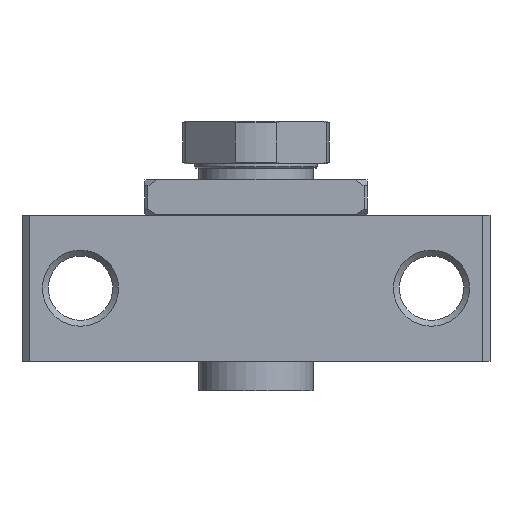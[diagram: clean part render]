
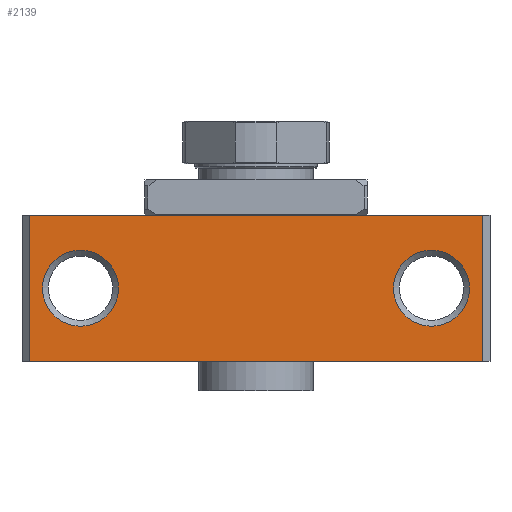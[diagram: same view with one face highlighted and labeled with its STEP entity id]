
A CAD part, front view. The second image highlights one B-rep face of the part: STEP entity #2139.
In plain terms, the highlighted planar face has unit normal (0, -1, 0).
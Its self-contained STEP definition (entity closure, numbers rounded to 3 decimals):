
#126=LINE('',#3228,#294);
#156=LINE('',#3307,#324);
#157=LINE('',#3313,#325);
#158=LINE('',#3315,#326);
#294=VECTOR('',#2588,1000.);
#324=VECTOR('',#2646,1000.);
#325=VECTOR('',#2653,1000.);
#326=VECTOR('',#2654,1000.);
#451=PLANE('',#2332);
#603=ORIENTED_EDGE('',*,*,#1179,.F.);
#604=ORIENTED_EDGE('',*,*,#1180,.F.);
#605=ORIENTED_EDGE('',*,*,#1181,.F.);
#606=ORIENTED_EDGE('',*,*,#1178,.F.);
#607=ORIENTED_EDGE('',*,*,#1141,.T.);
#608=ORIENTED_EDGE('',*,*,#1182,.T.);
#1141=EDGE_CURVE('',#1431,#1430,#126,.T.);
#1178=EDGE_CURVE('',#1431,#1465,#156,.T.);
#1179=EDGE_CURVE('',#1466,#1466,#1629,.T.);
#1180=EDGE_CURVE('',#1467,#1467,#1630,.T.);
#1181=EDGE_CURVE('',#1465,#1468,#157,.T.);
#1182=EDGE_CURVE('',#1430,#1468,#158,.T.);
#1430=VERTEX_POINT('',#3227);
#1431=VERTEX_POINT('',#3229);
#1465=VERTEX_POINT('',#3306);
#1466=VERTEX_POINT('',#3310);
#1467=VERTEX_POINT('',#3312);
#1468=VERTEX_POINT('',#3314);
#1629=CIRCLE('',#2333,6.5);
#1630=CIRCLE('',#2334,6.5);
#1722=EDGE_LOOP('',(#603));
#1723=EDGE_LOOP('',(#604));
#1724=EDGE_LOOP('',(#605,#606,#607,#608));
#1922=FACE_BOUND('',#1722,.T.);
#1923=FACE_BOUND('',#1723,.T.);
#1924=FACE_BOUND('',#1724,.T.);
#2139=ADVANCED_FACE('',(#1922,#1923,#1924),#451,.T.);
#2332=AXIS2_PLACEMENT_3D('',#3308,#2647,#2648);
#2333=AXIS2_PLACEMENT_3D('',#3309,#2649,#2650);
#2334=AXIS2_PLACEMENT_3D('',#3311,#2651,#2652);
#2588=DIRECTION('',(1.,0.,0.));
#2646=DIRECTION('',(0.,0.,1.));
#2647=DIRECTION('',(0.,-1.,0.));
#2648=DIRECTION('',(0.,0.,-1.));
#2649=DIRECTION('',(0.,-1.,0.));
#2650=DIRECTION('',(0.,0.,-1.));
#2651=DIRECTION('',(0.,-1.,0.));
#2652=DIRECTION('',(0.,0.,-1.));
#2653=DIRECTION('',(1.,0.,0.));
#2654=DIRECTION('',(0.,0.,1.));
#3227=CARTESIAN_POINT('',(38.77,-22.,-25.));
#3228=CARTESIAN_POINT('',(-38.77,-22.,-25.));
#3229=CARTESIAN_POINT('',(-38.77,-22.,-25.));
#3306=CARTESIAN_POINT('',(-38.77,-22.,0.));
#3307=CARTESIAN_POINT('',(-38.77,-22.,-25.));
#3308=CARTESIAN_POINT('',(-38.77,-22.,-25.));
#3309=CARTESIAN_POINT('',(30.,-22.,-12.5));
#3310=CARTESIAN_POINT('',(30.,-22.,-19.));
#3311=CARTESIAN_POINT('',(-30.,-22.,-12.5));
#3312=CARTESIAN_POINT('',(-30.,-22.,-19.));
#3313=CARTESIAN_POINT('',(-38.77,-22.,0.));
#3314=CARTESIAN_POINT('',(38.77,-22.,0.));
#3315=CARTESIAN_POINT('',(38.77,-22.,-25.));
